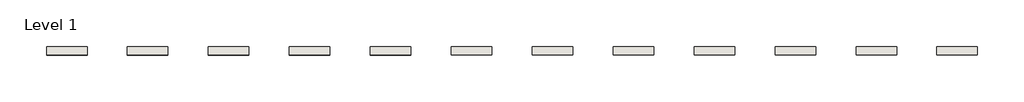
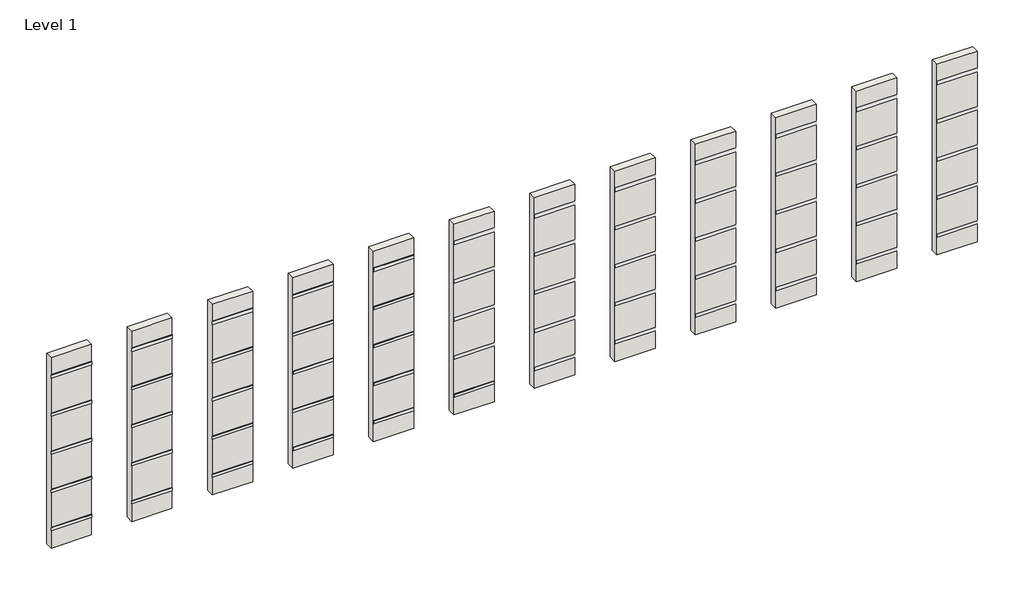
# One storey, part 1 of 2: 26 coverings, 12 walls.
"""IFC4 building model written with IfcOpenShell, lengths in millimetres."""

import ifcopenshell
import ifcopenshell.guid

model = None  # the IFC model being written
_history = None  # IfcOwnerHistory: only IFC2X3 demands one
_inside = {}  # id of a spatial element -> (the spatial element, [elements in it])
_under = {}  # id of a project, library or spatial element -> (it, [spatial elements below it])
_declared = {}  # id of a project -> (the project, [libraries it declares])
_typed = {}  # id of a type object -> (the type object, [elements of that type])
_made_of = {}  # id of a material, layer set ... -> (it, [elements and type objects made of it])


def new_model(schema):
    """Start an empty IFC model of exactly this schema.

    Asked for "IFC4X3", IfcOpenShell would pick the latest addendum, in which some entities
    have other attributes; the version numbers below select the first issue.
    IFC2X3 requires an IfcOwnerHistory on every rooted entity: one is made here for all.
    """
    global model, _history
    if schema == "IFC4X3":
        model = ifcopenshell.file(schema_version=(4, 3, 0, 0))
    else:
        model = ifcopenshell.file(schema=schema)
    _inside.clear()
    _under.clear()
    _declared.clear()
    _typed.clear()
    _made_of.clear()
    _history = None
    if model.schema == "IFC2X3":
        org = make("IfcOrganization", Name="unknown")
        user = make(
            "IfcPersonAndOrganization",
            ThePerson=make("IfcPerson", FamilyName="unknown"),
            TheOrganization=org,
        )
        app = make(
            "IfcApplication",
            ApplicationDeveloper=org,
            Version="unknown",
            ApplicationFullName="unknown",
            ApplicationIdentifier="unknown",
        )
        _history = make(
            "IfcOwnerHistory",
            OwningUser=user,
            OwningApplication=app,
            ChangeAction="ADDED",
            CreationDate=0,
        )
    return model


def make(cls, **values):
    """One entity of the class cls with the attributes given. An attribute that is None is left unset."""
    return model.create_entity(
        cls, **{name: value for name, value in values.items() if value is not None}
    )


def rooted(cls, **values):
    """An entity with a GlobalId (a new one), such as an element, a storey or a relation."""
    return make(cls, GlobalId=ifcopenshell.guid.new(), OwnerHistory=_history, **values)


def si_unit(unit_type, name, prefix=None):
    """IfcSIUnit, for example si_unit("LENGTHUNIT", "METRE", prefix="MILLI")."""
    return make("IfcSIUnit", UnitType=unit_type, Prefix=prefix, Name=name)


def assignment(units):
    """IfcUnitAssignment: the units of a project."""
    return None if units is None else make("IfcUnitAssignment", Units=units)


def point(xyz):
    """IfcCartesianPoint."""
    return None if xyz is None else make("IfcCartesianPoint", Coordinates=xyz)


def direction(xyz):
    """IfcDirection."""
    return None if xyz is None else make("IfcDirection", DirectionRatios=xyz)


def frame(location, z_axis=None, x_axis=None):
    """IfcAxis2Placement3D, a coordinate frame: its origin and axes. An axis left out is left unset."""
    return make(
        "IfcAxis2Placement3D",
        Location=point(location),
        Axis=direction(z_axis),
        RefDirection=direction(x_axis),
    )


def frame_2d(location, x_axis=None):
    """IfcAxis2Placement2D, a coordinate frame in the plane: its origin and x axis."""
    return make(
        "IfcAxis2Placement2D", Location=point(location), RefDirection=direction(x_axis)
    )


def origin():
    """The frame at (0, 0, 0) with its axes left unset."""
    return frame((0.0, 0.0, 0.0))


def place(relative_to, where):
    """IfcLocalPlacement: puts the frame where relative to a parent placement (None: the world)."""
    return make(
        "IfcLocalPlacement", PlacementRelTo=relative_to, RelativePlacement=where
    )


def context(
    kind, dimensions, precision=None, world=None, true_north=None, identifier=None
):
    """IfcGeometricRepresentationContext, for example the 3D "Model" context."""
    return make(
        "IfcGeometricRepresentationContext",
        ContextIdentifier=identifier,
        ContextType=kind,
        CoordinateSpaceDimension=dimensions,
        Precision=precision,
        WorldCoordinateSystem=world,
        TrueNorth=true_north,
    )


def project(units=None, contexts=None):
    """IfcProject with its units and contexts."""
    return rooted(
        "IfcProject",
        Name="project",
        RepresentationContexts=contexts,
        UnitsInContext=assignment(units),
    )


def spatial(cls, under=None, at=None, **own):
    """A site, building, storey or space (cls), placed at a placement, below another one or the project."""
    s = rooted(cls, ObjectPlacement=at, **own)
    if under is not None:
        _under.setdefault(under.id(), (under, []))[1].append(s)
    return s


def polyline(points):
    """IfcPolyline through the points."""
    return make("IfcPolyline", Points=[point(p) for p in points])


def circle_curve(where, radius):
    """IfcCircle in the frame where."""
    return make("IfcCircle", Position=where, Radius=radius)


def trimmed(basis, trim1, trim2, sense, master):
    """IfcTrimmedCurve: the piece of a basis curve between two trims."""
    return make(
        "IfcTrimmedCurve",
        BasisCurve=basis,
        Trim1=trim1,
        Trim2=trim2,
        SenseAgreement=sense,
        MasterRepresentation=master,
    )


def segment(curve, same_sense, transition):
    """IfcCompositeCurveSegment."""
    return make(
        "IfcCompositeCurveSegment",
        Transition=transition,
        SameSense=same_sense,
        ParentCurve=curve,
    )


def composite_curve(segments, self_intersect=None):
    """IfcCompositeCurve: segments joined end to end."""
    return make("IfcCompositeCurve", Segments=segments, SelfIntersect=self_intersect)


def outline(outer, holes=None, kind="AREA"):
    """IfcArbitraryClosedProfileDef: a profile drawn as a closed curve; with holes, ...WithVoids."""
    if holes is None:
        return make("IfcArbitraryClosedProfileDef", ProfileType=kind, OuterCurve=outer)
    return make(
        "IfcArbitraryProfileDefWithVoids",
        ProfileType=kind,
        OuterCurve=outer,
        InnerCurves=holes,
    )


def extrude(swept, where, along, depth):
    """IfcExtrudedAreaSolid: the profile swept, set in the frame where, extruded along a direction by depth."""
    return make(
        "IfcExtrudedAreaSolid",
        SweptArea=swept,
        Position=where,
        ExtrudedDirection=direction(along),
        Depth=depth,
    )


def shape(context_of_items, identifier, shape_type, items):
    """IfcShapeRepresentation: the items that make up one representation, for example the "Body"."""
    return make(
        "IfcShapeRepresentation",
        ContextOfItems=context_of_items,
        RepresentationIdentifier=identifier,
        RepresentationType=shape_type,
        Items=items,
    )


def made_of(thing, what):
    """Note that an element or type object is made of a material, layer set ...; save() writes the relation."""
    if what is not None:
        _made_of.setdefault(what.id(), (what, []))[1].append(thing)
    return thing


def element(
    cls,
    number,
    at=None,
    inside=None,
    cuts=None,
    type_object=None,
    material=None,
    context=None,
    identifier="Body",
    shape_type=None,
    held_by="IfcProductDefinitionShape",
    body=None,
    shapes=None,
    **own,
):
    """One element of the class cls, such as IfcWall. Its Tag is "e" and its number.

    at: its placement. inside: the storey or other place that contains it. cuts: it is an
    opening in that element (IfcRelVoidsElement). A single representation is given by context,
    identifier, shape_type and body (its items); several are given by shapes. held_by: the class
    of the entity that holds the representations. save() writes the other relations.
    """
    e = rooted(cls, Tag="e%d" % number, ObjectPlacement=at, **own)
    if body is not None:
        shapes = [shape(context, identifier, shape_type, body)]
    if shapes is not None:
        e.Representation = make(held_by, Representations=shapes)
    if inside is not None:
        _inside.setdefault(inside.id(), (inside, []))[1].append(e)
    if cuts is not None:
        rooted(
            "IfcRelVoidsElement", RelatingBuildingElement=cuts, RelatedOpeningElement=e
        )
    if type_object is not None:
        _typed.setdefault(type_object.id(), (type_object, []))[1].append(e)
    return made_of(e, material)


def aggregate(whole, parts):
    """IfcRelAggregates: a whole, such as a stair, and the parts it consists of."""
    return rooted("IfcRelAggregates", RelatingObject=whole, RelatedObjects=parts)


def save(model, path):
    """Write the relations noted so far, then the file.

    IfcRelAggregates (storeys below a building ...), IfcRelContainedInSpatialStructure (elements
    in a storey), IfcRelDefinesByType, IfcRelAssociatesMaterial and IfcRelDeclares: one each for
    every whole, place, type object, material and project.
    """
    for whole, parts in _under.values():
        aggregate(whole, parts)
    for where, things in _inside.values():
        rooted(
            "IfcRelContainedInSpatialStructure",
            RelatedElements=things,
            RelatingStructure=where,
        )
    for kind, things in _typed.values():
        rooted("IfcRelDefinesByType", RelatedObjects=things, RelatingType=kind)
    for what, things in _made_of.values():
        rooted("IfcRelAssociatesMaterial", RelatedObjects=things, RelatingMaterial=what)
    for by, libraries in _declared.values():
        rooted("IfcRelDeclares", RelatingContext=by, RelatedDefinitions=libraries)
    model.write(path)


model = new_model("IFC4")

# Units and contexts
model_context = context("Model", 3, world=origin())
ifc_project = project(units=[si_unit("LENGTHUNIT", "METRE", prefix="MILLI")], contexts=[model_context])

# Site, building, storey
site = spatial("IfcSite", under=ifc_project)
building = spatial("IfcBuilding", under=site)
storey = spatial("IfcBuildingStorey", under=building, Name="Level 1", Elevation=0.0)

# Coverings
placement = place(None, origin())
element("IfcCovering", 1, ObjectType="REVIGRÉS-OMNISTONE-RB-8X45-MATTRECT-BONE", at=placement, inside=storey, context=model_context, shape_type="SweptSolid", body=[
    extrude(outline(composite_curve([segment(polyline([(-6973.1153225, -17529.6057204), (-6983.6153225, -17529.6057204), (-6983.6153225, -17460.1057204)]), True, "CONTINUOUS"), segment(trimmed(circle_curve(frame_2d((-6973.1153225, -17460.1057204)), 10.5), [point((-6983.6153225, -17460.1057204))], [point((-6973.1153225, -17449.6057204))], False, "CARTESIAN"), True, "CONTINUOUS"), segment(polyline([(-6973.1153225, -17449.6057204), (-6973.1153225, -17529.6057204)]), True, "CONTINUOUS")], self_intersect=False)), frame((5592.0023157, 0.0, 0.0), z_axis=(1.0, 0.0, 0.0), x_axis=(0.0, 1.0, 0.0)), (0.0, 0.0, 1.0), 1000.0),
])
element("IfcCovering", 2, ObjectType="REVIGRÉS-OMNISTONE-RB-8X60-MATTRECT-BONE", at=placement, inside=storey, context=model_context, shape_type="SweptSolid", body=[
    extrude(outline(composite_curve([segment(polyline([(-6973.1153225, -16529.6057204), (-6982.9153225, -16529.6057204), (-6982.9153225, -16459.4057204)]), True, "CONTINUOUS"), segment(trimmed(circle_curve(frame_2d((-6973.1153225, -16459.4057204)), 9.8), [point((-6982.9153225, -16459.4057204))], [point((-6973.1153225, -16449.6057204))], False, "CARTESIAN"), True, "CONTINUOUS"), segment(polyline([(-6973.1153225, -16449.6057204), (-6973.1153225, -16529.6057204)]), True, "CONTINUOUS")], self_intersect=False)), frame((5592.0023157, 0.0, 0.0), z_axis=(1.0, 0.0, 0.0), x_axis=(0.0, 1.0, 0.0)), (0.0, 0.0, 1.0), 1000.0),
])
element("IfcCovering", 3, ObjectType="REVIGRÉS-OMNISTONE-RB-8X90-MATTRECT-BONE", at=placement, inside=storey, context=model_context, shape_type="SweptSolid", body=[
    extrude(outline(composite_curve([segment(polyline([(-6973.1153225, -15529.6057204), (-6983.6153225, -15529.6057204), (-6983.6153225, -15460.1057204)]), True, "CONTINUOUS"), segment(trimmed(circle_curve(frame_2d((-6973.1153225, -15460.1057204)), 10.5), [point((-6983.6153225, -15460.1057204))], [point((-6973.1153225, -15449.6057204))], False, "CARTESIAN"), True, "CONTINUOUS"), segment(polyline([(-6973.1153225, -15449.6057204), (-6973.1153225, -15529.6057204)]), True, "CONTINUOUS")], self_intersect=False)), frame((5592.0023157, 0.0, 0.0), z_axis=(1.0, 0.0, 0.0), x_axis=(0.0, 1.0, 0.0)), (0.0, 0.0, 1.0), 1000.0),
])
element("IfcCovering", 4, ObjectType="REVIGRÉS-OMNISTONE-RB-8X120-MATTRECT-BONE", at=placement, inside=storey, context=model_context, shape_type="SweptSolid", body=[
    extrude(outline(composite_curve([segment(polyline([(-6973.1153225, -14529.6057204), (-6982.9153225, -14529.6057204), (-6982.9153225, -14459.4057204)]), True, "CONTINUOUS"), segment(trimmed(circle_curve(frame_2d((-6973.1153225, -14459.4057204)), 9.8), [point((-6982.9153225, -14459.4057204))], [point((-6973.1153225, -14449.6057204))], False, "CARTESIAN"), True, "CONTINUOUS"), segment(polyline([(-6973.1153225, -14449.6057204), (-6973.1153225, -14529.6057204)]), True, "CONTINUOUS")], self_intersect=False)), frame((5592.0023157, 0.0, 0.0), z_axis=(1.0, 0.0, 0.0), x_axis=(0.0, 1.0, 0.0)), (0.0, 0.0, 1.0), 1000.0),
])
element("IfcCovering", 5, ObjectType="REVIGRÉS-OMNISTONE-RB-9.5X30-MATTRECT-BONE", at=placement, inside=storey, context=model_context, shape_type="SweptSolid", body=[
    extrude(outline(composite_curve([segment(polyline([(-6973.1153225, -13529.6057204), (-6982.9153225, -13529.6057204), (-6982.9153225, -13444.4057204)]), True, "CONTINUOUS"), segment(trimmed(circle_curve(frame_2d((-6973.1153225, -13444.4057204)), 9.8), [point((-6982.9153225, -13444.4057204))], [point((-6973.1153225, -13434.6057204))], False, "CARTESIAN"), True, "CONTINUOUS"), segment(polyline([(-6973.1153225, -13434.6057204), (-6973.1153225, -13529.6057204)]), True, "CONTINUOUS")], self_intersect=False)), frame((5592.0023157, 0.0, 0.0), z_axis=(1.0, 0.0, 0.0), x_axis=(0.0, 1.0, 0.0)), (0.0, 0.0, 1.0), 1000.0),
])
element("IfcCovering", 6, ObjectType="REVIGRÉS-OMNISTONE-RB-8X45-SOFT-BONE", at=placement, inside=storey, context=model_context, shape_type="SweptSolid", body=[
    extrude(outline(composite_curve([segment(polyline([(-6973.1153225, -17529.6057204), (-6983.6153225, -17529.6057204), (-6983.6153225, -17460.1057204)]), True, "CONTINUOUS"), segment(trimmed(circle_curve(frame_2d((-6973.1153225, -17460.1057204)), 10.5), [point((-6983.6153225, -17460.1057204))], [point((-6973.1153225, -17449.6057204))], False, "CARTESIAN"), True, "CONTINUOUS"), segment(polyline([(-6973.1153225, -17449.6057204), (-6973.1153225, -17529.6057204)]), True, "CONTINUOUS")], self_intersect=False)), frame((7592.0023157, 0.0, 0.0), z_axis=(1.0, 0.0, 0.0), x_axis=(0.0, 1.0, 0.0)), (0.0, 0.0, 1.0), 1000.0),
])
element("IfcCovering", 7, ObjectType="REVIGRÉS-OMNISTONE-RB-8X60-SOFT-BONE", at=placement, inside=storey, context=model_context, shape_type="SweptSolid", body=[
    extrude(outline(composite_curve([segment(polyline([(-6973.1153225, -16529.6057204), (-6982.9153225, -16529.6057204), (-6982.9153225, -16459.4057204)]), True, "CONTINUOUS"), segment(trimmed(circle_curve(frame_2d((-6973.1153225, -16459.4057204)), 9.8), [point((-6982.9153225, -16459.4057204))], [point((-6973.1153225, -16449.6057204))], False, "CARTESIAN"), True, "CONTINUOUS"), segment(polyline([(-6973.1153225, -16449.6057204), (-6973.1153225, -16529.6057204)]), True, "CONTINUOUS")], self_intersect=False)), frame((7592.0023157, 0.0, 0.0), z_axis=(1.0, 0.0, 0.0), x_axis=(0.0, 1.0, 0.0)), (0.0, 0.0, 1.0), 1000.0),
])
element("IfcCovering", 8, ObjectType="REVIGRÉS-OMNISTONE-RB-8X90-SOFT-BONE", at=placement, inside=storey, context=model_context, shape_type="SweptSolid", body=[
    extrude(outline(composite_curve([segment(polyline([(-6973.1153225, -15529.6057204), (-6983.6153225, -15529.6057204), (-6983.6153225, -15460.1057204)]), True, "CONTINUOUS"), segment(trimmed(circle_curve(frame_2d((-6973.1153225, -15460.1057204)), 10.5), [point((-6983.6153225, -15460.1057204))], [point((-6973.1153225, -15449.6057204))], False, "CARTESIAN"), True, "CONTINUOUS"), segment(polyline([(-6973.1153225, -15449.6057204), (-6973.1153225, -15529.6057204)]), True, "CONTINUOUS")], self_intersect=False)), frame((7592.0023157, 0.0, 0.0), z_axis=(1.0, 0.0, 0.0), x_axis=(0.0, 1.0, 0.0)), (0.0, 0.0, 1.0), 1000.0),
])
element("IfcCovering", 9, ObjectType="REVIGRÉS-OMNISTONE-RB-8X120-SOFT-BONE", at=placement, inside=storey, context=model_context, shape_type="SweptSolid", body=[
    extrude(outline(composite_curve([segment(polyline([(-6973.1153225, -14529.6057204), (-6982.9153225, -14529.6057204), (-6982.9153225, -14459.4057204)]), True, "CONTINUOUS"), segment(trimmed(circle_curve(frame_2d((-6973.1153225, -14459.4057204)), 9.8), [point((-6982.9153225, -14459.4057204))], [point((-6973.1153225, -14449.6057204))], False, "CARTESIAN"), True, "CONTINUOUS"), segment(polyline([(-6973.1153225, -14449.6057204), (-6973.1153225, -14529.6057204)]), True, "CONTINUOUS")], self_intersect=False)), frame((7592.0023157, 0.0, 0.0), z_axis=(1.0, 0.0, 0.0), x_axis=(0.0, 1.0, 0.0)), (0.0, 0.0, 1.0), 1000.0),
])
element("IfcCovering", 10, ObjectType="REVIGRÉS-OMNISTONE-RB-9.5X30-SOFT-BONE", at=placement, inside=storey, context=model_context, shape_type="SweptSolid", body=[
    extrude(outline(composite_curve([segment(polyline([(-6973.1153225, -13529.6057204), (-6982.9153225, -13529.6057204), (-6982.9153225, -13444.4057204)]), True, "CONTINUOUS"), segment(trimmed(circle_curve(frame_2d((-6973.1153225, -13444.4057204)), 9.8), [point((-6982.9153225, -13444.4057204))], [point((-6973.1153225, -13434.6057204))], False, "CARTESIAN"), True, "CONTINUOUS"), segment(polyline([(-6973.1153225, -13434.6057204), (-6973.1153225, -13529.6057204)]), True, "CONTINUOUS")], self_intersect=False)), frame((7592.0023157, 0.0, 0.0), z_axis=(1.0, 0.0, 0.0), x_axis=(0.0, 1.0, 0.0)), (0.0, 0.0, 1.0), 1000.0),
])
element("IfcCovering", 11, ObjectType="REVIGRÉS-OMNISTONE-RB-8X45-MATTRECT-ICE", at=placement, inside=storey, context=model_context, shape_type="SweptSolid", body=[
    extrude(outline(composite_curve([segment(polyline([(-6973.1153225, -17529.6057204), (-6983.6153225, -17529.6057204), (-6983.6153225, -17460.1057204)]), True, "CONTINUOUS"), segment(trimmed(circle_curve(frame_2d((-6973.1153225, -17460.1057204)), 10.5), [point((-6983.6153225, -17460.1057204))], [point((-6973.1153225, -17449.6057204))], False, "CARTESIAN"), True, "CONTINUOUS"), segment(polyline([(-6973.1153225, -17449.6057204), (-6973.1153225, -17529.6057204)]), True, "CONTINUOUS")], self_intersect=False)), frame((9592.0023157, 0.0, 0.0), z_axis=(1.0, 0.0, 0.0), x_axis=(0.0, 1.0, 0.0)), (0.0, 0.0, 1.0), 1000.0),
])
element("IfcCovering", 12, ObjectType="REVIGRÉS-OMNISTONE-RB-8X60-MATTRECT-ICE", at=placement, inside=storey, context=model_context, shape_type="SweptSolid", body=[
    extrude(outline(composite_curve([segment(polyline([(-6973.1153225, -16529.6057204), (-6982.9153225, -16529.6057204), (-6982.9153225, -16459.4057204)]), True, "CONTINUOUS"), segment(trimmed(circle_curve(frame_2d((-6973.1153225, -16459.4057204)), 9.8), [point((-6982.9153225, -16459.4057204))], [point((-6973.1153225, -16449.6057204))], False, "CARTESIAN"), True, "CONTINUOUS"), segment(polyline([(-6973.1153225, -16449.6057204), (-6973.1153225, -16529.6057204)]), True, "CONTINUOUS")], self_intersect=False)), frame((9592.0023157, 0.0, 0.0), z_axis=(1.0, 0.0, 0.0), x_axis=(0.0, 1.0, 0.0)), (0.0, 0.0, 1.0), 1000.0),
])
element("IfcCovering", 13, ObjectType="REVIGRÉS-OMNISTONE-RB-8X90-MATTRECT-ICE", at=placement, inside=storey, context=model_context, shape_type="SweptSolid", body=[
    extrude(outline(composite_curve([segment(polyline([(-6973.1153225, -15529.6057204), (-6983.6153225, -15529.6057204), (-6983.6153225, -15460.1057204)]), True, "CONTINUOUS"), segment(trimmed(circle_curve(frame_2d((-6973.1153225, -15460.1057204)), 10.5), [point((-6983.6153225, -15460.1057204))], [point((-6973.1153225, -15449.6057204))], False, "CARTESIAN"), True, "CONTINUOUS"), segment(polyline([(-6973.1153225, -15449.6057204), (-6973.1153225, -15529.6057204)]), True, "CONTINUOUS")], self_intersect=False)), frame((9592.0023157, 0.0, 0.0), z_axis=(1.0, 0.0, 0.0), x_axis=(0.0, 1.0, 0.0)), (0.0, 0.0, 1.0), 1000.0),
])
element("IfcCovering", 14, ObjectType="REVIGRÉS-OMNISTONE-RB-8X120-MATTRECT-ICE", at=placement, inside=storey, context=model_context, shape_type="SweptSolid", body=[
    extrude(outline(composite_curve([segment(polyline([(-6973.1153225, -14529.6057204), (-6982.9153225, -14529.6057204), (-6982.9153225, -14459.4057204)]), True, "CONTINUOUS"), segment(trimmed(circle_curve(frame_2d((-6973.1153225, -14459.4057204)), 9.8), [point((-6982.9153225, -14459.4057204))], [point((-6973.1153225, -14449.6057204))], False, "CARTESIAN"), True, "CONTINUOUS"), segment(polyline([(-6973.1153225, -14449.6057204), (-6973.1153225, -14529.6057204)]), True, "CONTINUOUS")], self_intersect=False)), frame((9592.0023157, 0.0, 0.0), z_axis=(1.0, 0.0, 0.0), x_axis=(0.0, 1.0, 0.0)), (0.0, 0.0, 1.0), 1000.0),
])
element("IfcCovering", 15, ObjectType="REVIGRÉS-OMNISTONE-RB-9.5X30-MATTRECT-ICE", at=placement, inside=storey, context=model_context, shape_type="SweptSolid", body=[
    extrude(outline(composite_curve([segment(polyline([(-6973.1153225, -13529.6057204), (-6982.9153225, -13529.6057204), (-6982.9153225, -13444.4057204)]), True, "CONTINUOUS"), segment(trimmed(circle_curve(frame_2d((-6973.1153225, -13444.4057204)), 9.8), [point((-6982.9153225, -13444.4057204))], [point((-6973.1153225, -13434.6057204))], False, "CARTESIAN"), True, "CONTINUOUS"), segment(polyline([(-6973.1153225, -13434.6057204), (-6973.1153225, -13529.6057204)]), True, "CONTINUOUS")], self_intersect=False)), frame((9592.0023157, 0.0, 0.0), z_axis=(1.0, 0.0, 0.0), x_axis=(0.0, 1.0, 0.0)), (0.0, 0.0, 1.0), 1000.0),
])
element("IfcCovering", 16, ObjectType="REVIGRÉS-OMNISTONE-RB-8X45-SOFT-ICE", at=placement, inside=storey, context=model_context, shape_type="SweptSolid", body=[
    extrude(outline(composite_curve([segment(polyline([(-6973.1153225, -17529.6057204), (-6983.6153225, -17529.6057204), (-6983.6153225, -17460.1057204)]), True, "CONTINUOUS"), segment(trimmed(circle_curve(frame_2d((-6973.1153225, -17460.1057204)), 10.5), [point((-6983.6153225, -17460.1057204))], [point((-6973.1153225, -17449.6057204))], False, "CARTESIAN"), True, "CONTINUOUS"), segment(polyline([(-6973.1153225, -17449.6057204), (-6973.1153225, -17529.6057204)]), True, "CONTINUOUS")], self_intersect=False)), frame((11592.0023157, 0.0, 0.0), z_axis=(1.0, 0.0, 0.0), x_axis=(0.0, 1.0, 0.0)), (0.0, 0.0, 1.0), 1000.0),
])
element("IfcCovering", 17, ObjectType="REVIGRÉS-OMNISTONE-RB-8X60-SOFT-ICE", at=placement, inside=storey, context=model_context, shape_type="SweptSolid", body=[
    extrude(outline(composite_curve([segment(polyline([(-6973.1153225, -16529.6057204), (-6982.9153225, -16529.6057204), (-6982.9153225, -16459.4057204)]), True, "CONTINUOUS"), segment(trimmed(circle_curve(frame_2d((-6973.1153225, -16459.4057204)), 9.8), [point((-6982.9153225, -16459.4057204))], [point((-6973.1153225, -16449.6057204))], False, "CARTESIAN"), True, "CONTINUOUS"), segment(polyline([(-6973.1153225, -16449.6057204), (-6973.1153225, -16529.6057204)]), True, "CONTINUOUS")], self_intersect=False)), frame((11592.0023157, 0.0, 0.0), z_axis=(1.0, 0.0, 0.0), x_axis=(0.0, 1.0, 0.0)), (0.0, 0.0, 1.0), 1000.0),
])
element("IfcCovering", 18, ObjectType="REVIGRÉS-OMNISTONE-RB-8X90-SOFT-ICE", at=placement, inside=storey, context=model_context, shape_type="SweptSolid", body=[
    extrude(outline(composite_curve([segment(polyline([(-6973.1153225, -15529.6057204), (-6983.6153225, -15529.6057204), (-6983.6153225, -15460.1057204)]), True, "CONTINUOUS"), segment(trimmed(circle_curve(frame_2d((-6973.1153225, -15460.1057204)), 10.5), [point((-6983.6153225, -15460.1057204))], [point((-6973.1153225, -15449.6057204))], False, "CARTESIAN"), True, "CONTINUOUS"), segment(polyline([(-6973.1153225, -15449.6057204), (-6973.1153225, -15529.6057204)]), True, "CONTINUOUS")], self_intersect=False)), frame((11592.0023157, 0.0, 0.0), z_axis=(1.0, 0.0, 0.0), x_axis=(0.0, 1.0, 0.0)), (0.0, 0.0, 1.0), 1000.0),
])
element("IfcCovering", 19, ObjectType="REVIGRÉS-OMNISTONE-RB-8X120-SOFT-ICE", at=placement, inside=storey, context=model_context, shape_type="SweptSolid", body=[
    extrude(outline(composite_curve([segment(polyline([(-6973.1153225, -14529.6057204), (-6982.9153225, -14529.6057204), (-6982.9153225, -14459.4057204)]), True, "CONTINUOUS"), segment(trimmed(circle_curve(frame_2d((-6973.1153225, -14459.4057204)), 9.8), [point((-6982.9153225, -14459.4057204))], [point((-6973.1153225, -14449.6057204))], False, "CARTESIAN"), True, "CONTINUOUS"), segment(polyline([(-6973.1153225, -14449.6057204), (-6973.1153225, -14529.6057204)]), True, "CONTINUOUS")], self_intersect=False)), frame((11592.0023157, 0.0, 0.0), z_axis=(1.0, 0.0, 0.0), x_axis=(0.0, 1.0, 0.0)), (0.0, 0.0, 1.0), 1000.0),
])
element("IfcCovering", 20, ObjectType="REVIGRÉS-OMNISTONE-RB-9.5X30-SOFT-ICE", at=placement, inside=storey, context=model_context, shape_type="SweptSolid", body=[
    extrude(outline(composite_curve([segment(polyline([(-6973.1153225, -13529.6057204), (-6982.9153225, -13529.6057204), (-6982.9153225, -13444.4057204)]), True, "CONTINUOUS"), segment(trimmed(circle_curve(frame_2d((-6973.1153225, -13444.4057204)), 9.8), [point((-6982.9153225, -13444.4057204))], [point((-6973.1153225, -13434.6057204))], False, "CARTESIAN"), True, "CONTINUOUS"), segment(polyline([(-6973.1153225, -13434.6057204), (-6973.1153225, -13529.6057204)]), True, "CONTINUOUS")], self_intersect=False)), frame((11592.0023157, 0.0, 0.0), z_axis=(1.0, 0.0, 0.0), x_axis=(0.0, 1.0, 0.0)), (0.0, 0.0, 1.0), 1000.0),
])
element("IfcCovering", 21, ObjectType="REVIGRÉS-OMNISTONE-RB-8X45-MATTRECT-IRON", at=placement, inside=storey, context=model_context, shape_type="SweptSolid", body=[
    extrude(outline(composite_curve([segment(polyline([(-6973.1153225, -17529.6057204), (-6983.6153225, -17529.6057204), (-6983.6153225, -17460.1057204)]), True, "CONTINUOUS"), segment(trimmed(circle_curve(frame_2d((-6973.1153225, -17460.1057204)), 10.5), [point((-6983.6153225, -17460.1057204))], [point((-6973.1153225, -17449.6057204))], False, "CARTESIAN"), True, "CONTINUOUS"), segment(polyline([(-6973.1153225, -17449.6057204), (-6973.1153225, -17529.6057204)]), True, "CONTINUOUS")], self_intersect=False)), frame((13592.0023157, 0.0, 0.0), z_axis=(1.0, 0.0, 0.0), x_axis=(0.0, 1.0, 0.0)), (0.0, 0.0, 1.0), 1000.0),
])
element("IfcCovering", 22, ObjectType="REVIGRÉS-OMNISTONE-RB-8X60-MATTRECT-IRON", at=placement, inside=storey, context=model_context, shape_type="SweptSolid", body=[
    extrude(outline(composite_curve([segment(polyline([(-6973.1153225, -16529.6057204), (-6982.9153225, -16529.6057204), (-6982.9153225, -16459.4057204)]), True, "CONTINUOUS"), segment(trimmed(circle_curve(frame_2d((-6973.1153225, -16459.4057204)), 9.8), [point((-6982.9153225, -16459.4057204))], [point((-6973.1153225, -16449.6057204))], False, "CARTESIAN"), True, "CONTINUOUS"), segment(polyline([(-6973.1153225, -16449.6057204), (-6973.1153225, -16529.6057204)]), True, "CONTINUOUS")], self_intersect=False)), frame((13592.0023157, 0.0, 0.0), z_axis=(1.0, 0.0, 0.0), x_axis=(0.0, 1.0, 0.0)), (0.0, 0.0, 1.0), 1000.0),
])
element("IfcCovering", 23, ObjectType="REVIGRÉS-OMNISTONE-RB-8X90-MATTRECT-IRON", at=placement, inside=storey, context=model_context, shape_type="SweptSolid", body=[
    extrude(outline(composite_curve([segment(polyline([(-6973.1153225, -15529.6057204), (-6983.6153225, -15529.6057204), (-6983.6153225, -15460.1057204)]), True, "CONTINUOUS"), segment(trimmed(circle_curve(frame_2d((-6973.1153225, -15460.1057204)), 10.5), [point((-6983.6153225, -15460.1057204))], [point((-6973.1153225, -15449.6057204))], False, "CARTESIAN"), True, "CONTINUOUS"), segment(polyline([(-6973.1153225, -15449.6057204), (-6973.1153225, -15529.6057204)]), True, "CONTINUOUS")], self_intersect=False)), frame((13592.0023157, 0.0, 0.0), z_axis=(1.0, 0.0, 0.0), x_axis=(0.0, 1.0, 0.0)), (0.0, 0.0, 1.0), 1000.0),
])
element("IfcCovering", 24, ObjectType="REVIGRÉS-OMNISTONE-RB-8X120-MATTRECT-IRON", at=placement, inside=storey, context=model_context, shape_type="SweptSolid", body=[
    extrude(outline(composite_curve([segment(polyline([(-6973.1153225, -14529.6057204), (-6982.9153225, -14529.6057204), (-6982.9153225, -14459.4057204)]), True, "CONTINUOUS"), segment(trimmed(circle_curve(frame_2d((-6973.1153225, -14459.4057204)), 9.8), [point((-6982.9153225, -14459.4057204))], [point((-6973.1153225, -14449.6057204))], False, "CARTESIAN"), True, "CONTINUOUS"), segment(polyline([(-6973.1153225, -14449.6057204), (-6973.1153225, -14529.6057204)]), True, "CONTINUOUS")], self_intersect=False)), frame((13592.0023157, 0.0, 0.0), z_axis=(1.0, 0.0, 0.0), x_axis=(0.0, 1.0, 0.0)), (0.0, 0.0, 1.0), 1000.0),
])
element("IfcCovering", 25, ObjectType="REVIGRÉS-OMNISTONE-RB-9.5X30-MATTRECT-IRON", at=placement, inside=storey, context=model_context, shape_type="SweptSolid", body=[
    extrude(outline(composite_curve([segment(polyline([(-6973.1153225, -13529.6057204), (-6982.9153225, -13529.6057204), (-6982.9153225, -13444.4057204)]), True, "CONTINUOUS"), segment(trimmed(circle_curve(frame_2d((-6973.1153225, -13444.4057204)), 9.8), [point((-6982.9153225, -13444.4057204))], [point((-6973.1153225, -13434.6057204))], False, "CARTESIAN"), True, "CONTINUOUS"), segment(polyline([(-6973.1153225, -13434.6057204), (-6973.1153225, -13529.6057204)]), True, "CONTINUOUS")], self_intersect=False)), frame((13592.0023157, 0.0, 0.0), z_axis=(1.0, 0.0, 0.0), x_axis=(0.0, 1.0, 0.0)), (0.0, 0.0, 1.0), 1000.0),
])
element("IfcCovering", 26, ObjectType="REVIGRÉS-OMNISTONE-RB-8X45-SOFT-IRON", at=placement, inside=storey, context=model_context, shape_type="SweptSolid", body=[
    extrude(outline(composite_curve([segment(polyline([(-6973.1153225, -17529.6057204), (-6983.6153225, -17529.6057204), (-6983.6153225, -17460.1057204)]), True, "CONTINUOUS"), segment(trimmed(circle_curve(frame_2d((-6973.1153225, -17460.1057204)), 10.5), [point((-6983.6153225, -17460.1057204))], [point((-6973.1153225, -17449.6057204))], False, "CARTESIAN"), True, "CONTINUOUS"), segment(polyline([(-6973.1153225, -17449.6057204), (-6973.1153225, -17529.6057204)]), True, "CONTINUOUS")], self_intersect=False)), frame((15592.0023157, 0.0, 0.0), z_axis=(1.0, 0.0, 0.0), x_axis=(0.0, 1.0, 0.0)), (0.0, 0.0, 1.0), 1000.0),
])

# Walls
element("IfcWall", 27, ObjectType="Wall 1", at=placement, inside=storey, context=model_context, shape_type="SweptSolid", body=[
    extrude(outline(polyline([(6592.0023157, -6973.1153225), (5592.0023157, -6973.1153225), (5592.0023157, -6773.1153225), (6592.0023157, -6773.1153225), (6592.0023157, -6973.1153225)])), frame((0.0, 0.0, -17998.508414), z_axis=(0.0, 0.0, 1.0), x_axis=(1.0, 0.0, 0.0)), (0.0, 0.0, 1.0), 5000.0),
])
element("IfcWall", 28, ObjectType="Wall 1", at=placement, inside=storey, context=model_context, shape_type="SweptSolid", body=[
    extrude(outline(polyline([(8592.0023157, -6973.1153225), (7592.0023157, -6973.1153225), (7592.0023157, -6773.1153225), (8592.0023157, -6773.1153225), (8592.0023157, -6973.1153225)])), frame((0.0, 0.0, -17998.508414), z_axis=(0.0, 0.0, 1.0), x_axis=(1.0, 0.0, 0.0)), (0.0, 0.0, 1.0), 5000.0),
])
element("IfcWall", 29, ObjectType="Wall 1", at=placement, inside=storey, context=model_context, shape_type="SweptSolid", body=[
    extrude(outline(polyline([(10592.0023157, -6973.1153225), (9592.0023157, -6973.1153225), (9592.0023157, -6773.1153225), (10592.0023157, -6773.1153225), (10592.0023157, -6973.1153225)])), frame((0.0, 0.0, -17998.508414), z_axis=(0.0, 0.0, 1.0), x_axis=(1.0, 0.0, 0.0)), (0.0, 0.0, 1.0), 5000.0),
])
element("IfcWall", 30, ObjectType="Wall 1", at=placement, inside=storey, context=model_context, shape_type="SweptSolid", body=[
    extrude(outline(polyline([(12592.0023157, -6973.1153225), (11592.0023157, -6973.1153225), (11592.0023157, -6773.1153225), (12592.0023157, -6773.1153225), (12592.0023157, -6973.1153225)])), frame((0.0, 0.0, -17998.508414), z_axis=(0.0, 0.0, 1.0), x_axis=(1.0, 0.0, 0.0)), (0.0, 0.0, 1.0), 5000.0),
])
element("IfcWall", 31, ObjectType="Wall 1", at=placement, inside=storey, context=model_context, shape_type="SweptSolid", body=[
    extrude(outline(polyline([(14592.0023157, -6973.1153225), (13592.0023157, -6973.1153225), (13592.0023157, -6773.1153225), (14592.0023157, -6773.1153225), (14592.0023157, -6973.1153225)])), frame((0.0, 0.0, -17998.508414), z_axis=(0.0, 0.0, 1.0), x_axis=(1.0, 0.0, 0.0)), (0.0, 0.0, 1.0), 5000.0),
])
element("IfcWall", 32, ObjectType="Wall 1", at=placement, inside=storey, context=model_context, shape_type="SweptSolid", body=[
    extrude(outline(polyline([(16592.0023157, -6973.1153225), (15592.0023157, -6973.1153225), (15592.0023157, -6773.1153225), (16592.0023157, -6773.1153225), (16592.0023157, -6973.1153225)])), frame((0.0, 0.0, -17998.508414), z_axis=(0.0, 0.0, 1.0), x_axis=(1.0, 0.0, 0.0)), (0.0, 0.0, 1.0), 5000.0),
])
element("IfcWall", 33, ObjectType="Wall 1", at=placement, inside=storey, context=model_context, shape_type="SweptSolid", body=[
    extrude(outline(polyline([(18592.0023157, -6973.1153225), (17592.0023157, -6973.1153225), (17592.0023157, -6773.1153225), (18592.0023157, -6773.1153225), (18592.0023157, -6973.1153225)])), frame((0.0, 0.0, -17998.508414), z_axis=(0.0, 0.0, 1.0), x_axis=(1.0, 0.0, 0.0)), (0.0, 0.0, 1.0), 5000.0),
])
element("IfcWall", 34, ObjectType="Wall 1", at=placement, inside=storey, context=model_context, shape_type="SweptSolid", body=[
    extrude(outline(polyline([(20592.0023157, -6973.1153225), (19592.0023157, -6973.1153225), (19592.0023157, -6773.1153225), (20592.0023157, -6773.1153225), (20592.0023157, -6973.1153225)])), frame((0.0, 0.0, -17998.508414), z_axis=(0.0, 0.0, 1.0), x_axis=(1.0, 0.0, 0.0)), (0.0, 0.0, 1.0), 5000.0),
])
element("IfcWall", 35, ObjectType="Wall 1", at=placement, inside=storey, context=model_context, shape_type="SweptSolid", body=[
    extrude(outline(polyline([(22592.0023157, -6973.1153225), (21592.0023157, -6973.1153225), (21592.0023157, -6773.1153225), (22592.0023157, -6773.1153225), (22592.0023157, -6973.1153225)])), frame((0.0, 0.0, -17998.508414), z_axis=(0.0, 0.0, 1.0), x_axis=(1.0, 0.0, 0.0)), (0.0, 0.0, 1.0), 5000.0),
])
element("IfcWall", 36, ObjectType="Wall 1", at=placement, inside=storey, context=model_context, shape_type="SweptSolid", body=[
    extrude(outline(polyline([(24592.0023157, -6973.1153225), (23592.0023157, -6973.1153225), (23592.0023157, -6773.1153225), (24592.0023157, -6773.1153225), (24592.0023157, -6973.1153225)])), frame((0.0, 0.0, -17998.508414), z_axis=(0.0, 0.0, 1.0), x_axis=(1.0, 0.0, 0.0)), (0.0, 0.0, 1.0), 5000.0),
])
element("IfcWall", 37, ObjectType="Wall 1", at=placement, inside=storey, context=model_context, shape_type="SweptSolid", body=[
    extrude(outline(polyline([(26592.0023157, -6973.1153225), (25592.0023157, -6973.1153225), (25592.0023157, -6773.1153225), (26592.0023157, -6773.1153225), (26592.0023157, -6973.1153225)])), frame((0.0, 0.0, -17998.508414), z_axis=(0.0, 0.0, 1.0), x_axis=(1.0, 0.0, 0.0)), (0.0, 0.0, 1.0), 5000.0),
])
element("IfcWall", 38, ObjectType="Wall 1", at=placement, inside=storey, context=model_context, shape_type="SweptSolid", body=[
    extrude(outline(polyline([(28592.0023157, -6973.1153225), (27592.0023157, -6973.1153225), (27592.0023157, -6773.1153225), (28592.0023157, -6773.1153225), (28592.0023157, -6973.1153225)])), frame((0.0, 0.0, -17998.508414), z_axis=(0.0, 0.0, 1.0), x_axis=(1.0, 0.0, 0.0)), (0.0, 0.0, 1.0), 5000.0),
])

save(model, "model.ifc")
